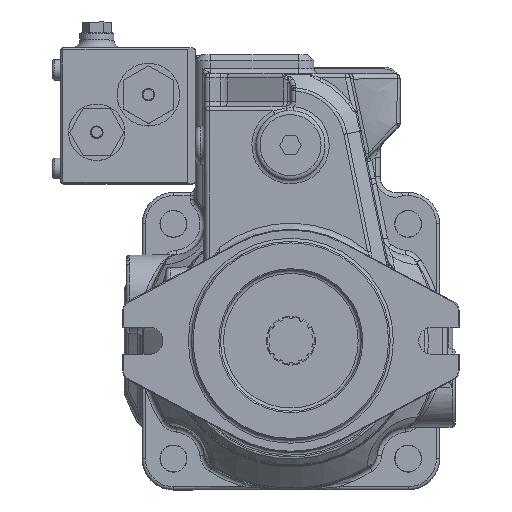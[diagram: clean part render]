
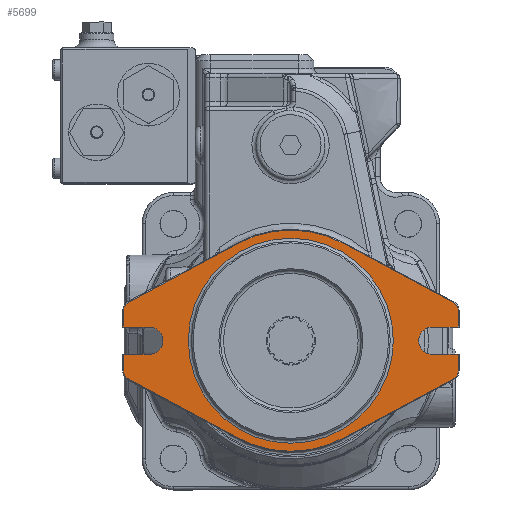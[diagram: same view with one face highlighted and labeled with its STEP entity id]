
A CAD part, top view. The second image highlights one B-rep face of the part: STEP entity #5699.
In plain terms, the highlighted planar face has unit normal (0, 0, 1).
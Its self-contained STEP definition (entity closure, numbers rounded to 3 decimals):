
#1094=CARTESIAN_POINT('',(-90.5,8.75,52.92));
#1095=VERTEX_POINT('',#1094);
#1102=CARTESIAN_POINT('',(-107.,8.75,52.92));
#1103=VERTEX_POINT('',#1102);
#1104=CARTESIAN_POINT('',(-90.5,8.75,52.92));
#1105=DIRECTION('',(-1.0,0.0,0.0));
#1106=VECTOR('',#1105,16.5);
#1107=LINE('',#1104,#1106);
#1108=EDGE_CURVE('',#1095,#1103,#1107,.T.);
#1478=CARTESIAN_POINT('',(90.5,-8.75,52.92));
#1479=VERTEX_POINT('',#1478);
#1486=CARTESIAN_POINT('',(107.,-8.75,52.92));
#1487=VERTEX_POINT('',#1486);
#1488=CARTESIAN_POINT('',(90.5,-8.75,52.92));
#1489=DIRECTION('',(1.0,0.0,0.0));
#1490=VECTOR('',#1489,16.5);
#1491=LINE('',#1488,#1490);
#1492=EDGE_CURVE('',#1479,#1487,#1491,.T.);
#1653=CARTESIAN_POINT('',(107.,8.75,52.92));
#1654=VERTEX_POINT('',#1653);
#1661=CARTESIAN_POINT('',(90.5,8.75,52.92));
#1662=VERTEX_POINT('',#1661);
#1663=CARTESIAN_POINT('',(107.,8.75,52.92));
#1664=DIRECTION('',(-1.0,0.0,0.0));
#1665=VECTOR('',#1664,16.5);
#1666=LINE('',#1663,#1665);
#1667=EDGE_CURVE('',#1654,#1662,#1666,.T.);
#1788=CARTESIAN_POINT('',(-107.,-8.75,52.92));
#1789=VERTEX_POINT('',#1788);
#1797=CARTESIAN_POINT('',(-107.,-19.23,52.92));
#1798=VERTEX_POINT('',#1797);
#1805=CARTESIAN_POINT('',(-107.,-19.23,52.92));
#1806=DIRECTION('',(0.0,1.0,0.0));
#1807=VECTOR('',#1806,10.48);
#1808=LINE('',#1805,#1807);
#1809=EDGE_CURVE('',#1798,#1789,#1808,.T.);
#1819=CARTESIAN_POINT('',(-103.872,-24.459,52.92));
#1820=VERTEX_POINT('',#1819);
#1827=CARTESIAN_POINT('',(-101.065,-19.23,52.92));
#1828=DIRECTION('',(0.,0.,-1.0));
#1829=DIRECTION('',(-0.473,-0.881,0.));
#1830=AXIS2_PLACEMENT_3D('',#1827,#1828,#1829);
#1831=CIRCLE('',#1830,5.935);
#1832=EDGE_CURVE('',#1820,#1798,#1831,.T.);
#1844=CARTESIAN_POINT('',(-33.433,-62.275,52.92));
#1845=VERTEX_POINT('',#1844);
#1852=CARTESIAN_POINT('',(-33.433,-62.275,52.92));
#1853=DIRECTION('',(-0.881,0.473,0.));
#1854=VECTOR('',#1853,79.948);
#1855=LINE('',#1852,#1854);
#1856=EDGE_CURVE('',#1845,#1820,#1855,.T.);
#1870=CARTESIAN_POINT('',(33.433,-62.275,52.92));
#1871=VERTEX_POINT('',#1870);
#1878=CARTESIAN_POINT('',(0.,0.,52.92));
#1879=DIRECTION('',(0.,0.,-1.0));
#1880=DIRECTION('',(0.473,-0.881,0.));
#1881=AXIS2_PLACEMENT_3D('',#1878,#1879,#1880);
#1882=CIRCLE('',#1881,70.683);
#1883=EDGE_CURVE('',#1871,#1845,#1882,.T.);
#1901=CARTESIAN_POINT('',(103.872,-24.459,52.92));
#1902=VERTEX_POINT('',#1901);
#1909=CARTESIAN_POINT('',(103.872,-24.459,52.92));
#1910=DIRECTION('',(-0.881,-0.473,0.));
#1911=VECTOR('',#1910,79.948);
#1912=LINE('',#1909,#1911);
#1913=EDGE_CURVE('',#1902,#1871,#1912,.T.);
#1930=CARTESIAN_POINT('',(107.,-19.23,52.92));
#1931=VERTEX_POINT('',#1930);
#1938=CARTESIAN_POINT('',(101.065,-19.23,52.92));
#1939=DIRECTION('',(0.0,0.0,-1.0));
#1940=DIRECTION('',(1.0,0.0,0.0));
#1941=AXIS2_PLACEMENT_3D('',#1938,#1939,#1940);
#1942=CIRCLE('',#1941,5.935);
#1943=EDGE_CURVE('',#1931,#1902,#1942,.T.);
#1956=CARTESIAN_POINT('',(107.,-8.75,52.92));
#1957=DIRECTION('',(0.0,-1.0,0.0));
#1958=VECTOR('',#1957,10.48);
#1959=LINE('',#1956,#1958);
#1960=EDGE_CURVE('',#1487,#1931,#1959,.T.);
#1992=CARTESIAN_POINT('',(-90.5,-8.75,52.92));
#1993=VERTEX_POINT('',#1992);
#1994=CARTESIAN_POINT('',(-107.,-8.75,52.92));
#1995=DIRECTION('',(1.0,0.0,0.0));
#1996=VECTOR('',#1995,16.5);
#1997=LINE('',#1994,#1996);
#1998=EDGE_CURVE('',#1789,#1993,#1997,.T.);
#2015=CARTESIAN_POINT('',(-33.433,62.275,52.92));
#2016=VERTEX_POINT('',#2015);
#2023=CARTESIAN_POINT('',(33.433,62.275,52.92));
#2024=VERTEX_POINT('',#2023);
#2025=CARTESIAN_POINT('',(0.,0.,52.92));
#2026=DIRECTION('',(0.,0.,-1.0));
#2027=DIRECTION('',(-0.473,0.881,0.));
#2028=AXIS2_PLACEMENT_3D('',#2025,#2026,#2027);
#2029=CIRCLE('',#2028,70.683);
#2030=EDGE_CURVE('',#2016,#2024,#2029,.T.);
#2053=CARTESIAN_POINT('',(-103.872,24.459,52.92));
#2054=VERTEX_POINT('',#2053);
#2061=CARTESIAN_POINT('',(-103.872,24.459,52.92));
#2062=DIRECTION('',(0.881,0.473,0.));
#2063=VECTOR('',#2062,79.948);
#2064=LINE('',#2061,#2063);
#2065=EDGE_CURVE('',#2054,#2016,#2064,.T.);
#2077=CARTESIAN_POINT('',(103.872,24.459,52.92));
#2078=VERTEX_POINT('',#2077);
#2087=CARTESIAN_POINT('',(33.433,62.275,52.92));
#2088=DIRECTION('',(0.881,-0.473,0.));
#2089=VECTOR('',#2088,79.948);
#2090=LINE('',#2087,#2089);
#2091=EDGE_CURVE('',#2024,#2078,#2090,.T.);
#2101=CARTESIAN_POINT('',(-107.,19.23,52.92));
#2102=VERTEX_POINT('',#2101);
#2109=CARTESIAN_POINT('',(-101.065,19.23,52.92));
#2110=DIRECTION('',(0.0,0.0,-1.0));
#2111=DIRECTION('',(-1.0,0.0,0.0));
#2112=AXIS2_PLACEMENT_3D('',#2109,#2110,#2111);
#2113=CIRCLE('',#2112,5.935);
#2114=EDGE_CURVE('',#2102,#2054,#2113,.T.);
#2126=CARTESIAN_POINT('',(107.,19.23,52.92));
#2127=VERTEX_POINT('',#2126);
#2136=CARTESIAN_POINT('',(101.065,19.23,52.92));
#2137=DIRECTION('',(0.,0.,-1.0));
#2138=DIRECTION('',(0.473,0.881,0.));
#2139=AXIS2_PLACEMENT_3D('',#2136,#2137,#2138);
#2140=CIRCLE('',#2139,5.935);
#2141=EDGE_CURVE('',#2078,#2127,#2140,.T.);
#2152=CARTESIAN_POINT('',(-107.,8.75,52.92));
#2153=DIRECTION('',(0.0,1.0,0.0));
#2154=VECTOR('',#2153,10.48);
#2155=LINE('',#2152,#2154);
#2156=EDGE_CURVE('',#1103,#2102,#2155,.T.);
#2171=CARTESIAN_POINT('',(107.0,19.23,52.92));
#2172=DIRECTION('',(0.0,-1.0,0.0));
#2173=VECTOR('',#2172,10.48);
#2174=LINE('',#2171,#2173);
#2175=EDGE_CURVE('',#2127,#1654,#2174,.T.);
#5645=CARTESIAN_POINT('',(65.488,0.,52.92));
#5646=VERTEX_POINT('',#5645);
#5647=CARTESIAN_POINT('',(0.,0.,52.92));
#5648=DIRECTION('',(0.0,0.0,1.0));
#5649=DIRECTION('',(-1.0,0.0,0.0));
#5650=AXIS2_PLACEMENT_3D('',#5647,#5648,#5649);
#5651=CIRCLE('',#5650,65.487);
#5652=EDGE_CURVE('',#5646,#5646,#5651,.T.);
#5657=CARTESIAN_POINT('',(0.,0.,52.92));
#5658=DIRECTION('',(0.0,0.0,1.0));
#5659=DIRECTION('',(1.0,0.0,0.0));
#5660=AXIS2_PLACEMENT_3D('',#5657,#5658,#5659);
#5661=PLANE('',#5660);
#5662=ORIENTED_EDGE('',*,*,#1960,.F.);
#5663=ORIENTED_EDGE('',*,*,#1492,.F.);
#5664=CARTESIAN_POINT('',(90.5,0.,52.92));
#5665=DIRECTION('',(0.0,0.0,1.0));
#5666=DIRECTION('',(0.0,1.0,0.0));
#5667=AXIS2_PLACEMENT_3D('',#5664,#5665,#5666);
#5668=CIRCLE('',#5667,8.75);
#5669=EDGE_CURVE('',#1662,#1479,#5668,.T.);
#5670=ORIENTED_EDGE('',*,*,#5669,.F.);
#5671=ORIENTED_EDGE('',*,*,#1667,.F.);
#5672=ORIENTED_EDGE('',*,*,#2175,.F.);
#5673=ORIENTED_EDGE('',*,*,#2141,.F.);
#5674=ORIENTED_EDGE('',*,*,#2091,.F.);
#5675=ORIENTED_EDGE('',*,*,#2030,.F.);
#5676=ORIENTED_EDGE('',*,*,#2065,.F.);
#5677=ORIENTED_EDGE('',*,*,#2114,.F.);
#5678=ORIENTED_EDGE('',*,*,#2156,.F.);
#5679=ORIENTED_EDGE('',*,*,#1108,.F.);
#5680=CARTESIAN_POINT('',(-90.5,0.,52.92));
#5681=DIRECTION('',(0.0,0.0,1.0));
#5682=DIRECTION('',(0.0,-1.0,0.0));
#5683=AXIS2_PLACEMENT_3D('',#5680,#5681,#5682);
#5684=CIRCLE('',#5683,8.75);
#5685=EDGE_CURVE('',#1993,#1095,#5684,.T.);
#5686=ORIENTED_EDGE('',*,*,#5685,.F.);
#5687=ORIENTED_EDGE('',*,*,#1998,.F.);
#5688=ORIENTED_EDGE('',*,*,#1809,.F.);
#5689=ORIENTED_EDGE('',*,*,#1832,.F.);
#5690=ORIENTED_EDGE('',*,*,#1856,.F.);
#5691=ORIENTED_EDGE('',*,*,#1883,.F.);
#5692=ORIENTED_EDGE('',*,*,#1913,.F.);
#5693=ORIENTED_EDGE('',*,*,#1943,.F.);
#5694=EDGE_LOOP('',(#5662,#5663,#5670,#5671,#5672,#5673,#5674,#5675,#5676,#5677,#5678,#5679,#5686,#5687,#5688,#5689,#5690,#5691,#5692,#5693));
#5695=FACE_OUTER_BOUND('',#5694,.T.);
#5696=ORIENTED_EDGE('',*,*,#5652,.F.);
#5697=EDGE_LOOP('',(#5696));
#5698=FACE_BOUND('',#5697,.T.);
#5699=ADVANCED_FACE('',(#5695,#5698),#5661,.T.);
